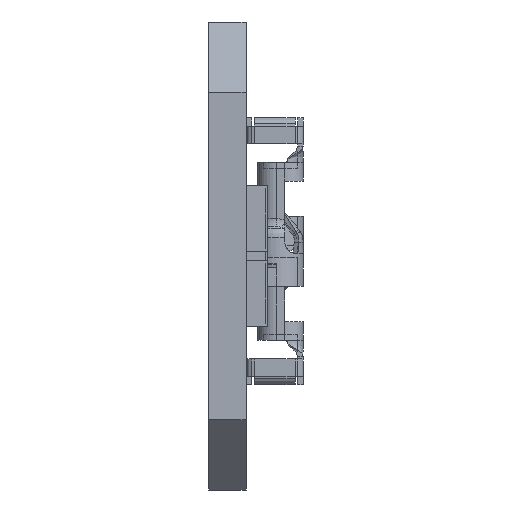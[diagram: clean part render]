
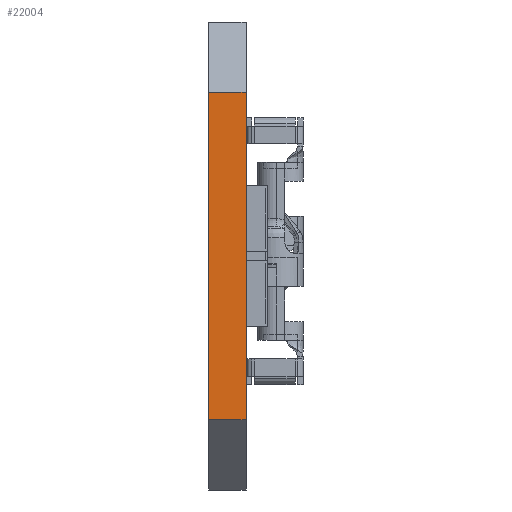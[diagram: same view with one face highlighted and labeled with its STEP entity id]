
A CAD part, left-side view. The second image highlights one B-rep face of the part: STEP entity #22004.
In plain terms, the highlighted planar face has unit normal (-1, 0, 0).
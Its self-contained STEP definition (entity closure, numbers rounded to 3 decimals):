
#1108=ORIENTED_EDGE('',*,*,#5737,.F.);
#1109=ORIENTED_EDGE('',*,*,#5736,.F.);
#1110=ORIENTED_EDGE('',*,*,#5602,.T.);
#1111=ORIENTED_EDGE('',*,*,#5738,.T.);
#5602=EDGE_CURVE('',#7953,#7952,#9438,.T.);
#5736=EDGE_CURVE('',#7953,#8049,#9545,.T.);
#5737=EDGE_CURVE('',#8049,#8050,#9546,.T.);
#5738=EDGE_CURVE('',#7952,#8050,#9547,.T.);
#7952=VERTEX_POINT('',#28347);
#7953=VERTEX_POINT('',#28349);
#8049=VERTEX_POINT('',#28615);
#8050=VERTEX_POINT('',#28619);
#9438=LINE('',#28348,#11282);
#9545=LINE('',#28616,#11389);
#9546=LINE('',#28618,#11390);
#9547=LINE('',#28620,#11391);
#11282=VECTOR('',#24144,1000.);
#11389=VECTOR('',#24379,1000.);
#11390=VECTOR('',#24382,1000.);
#11391=VECTOR('',#24383,1000.);
#13062=EDGE_LOOP('',(#1108,#1109,#1110,#1111));
#14060=FACE_BOUND('',#13062,.T.);
#15003=PLANE('',#22945);
#22004=ADVANCED_FACE('',(#14060),#15003,.T.);
#22945=AXIS2_PLACEMENT_3D('',#28617,#24380,#24381);
#24144=DIRECTION('',(0.,0.,1.));
#24379=DIRECTION('',(0.,1.,0.));
#24380=DIRECTION('',(-1.,0.,0.));
#24381=DIRECTION('',(0.,0.,1.));
#24382=DIRECTION('',(0.,0.,1.));
#24383=DIRECTION('',(0.,1.,0.));
#28347=CARTESIAN_POINT('',(-72.199,-1.6,-25.633));
#28348=CARTESIAN_POINT('',(-72.199,-1.6,-39.633));
#28349=CARTESIAN_POINT('',(-72.199,-1.6,-39.633));
#28615=CARTESIAN_POINT('',(-72.199,0.,-39.633));
#28616=CARTESIAN_POINT('',(-72.199,-1.6,-39.633));
#28617=CARTESIAN_POINT('',(-72.199,-1.6,-39.633));
#28618=CARTESIAN_POINT('',(-72.199,0.,-39.633));
#28619=CARTESIAN_POINT('',(-72.199,0.,-25.633));
#28620=CARTESIAN_POINT('',(-72.199,-1.6,-25.633));
